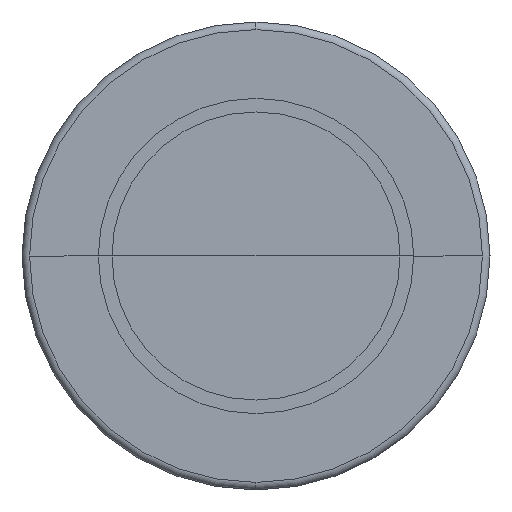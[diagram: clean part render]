
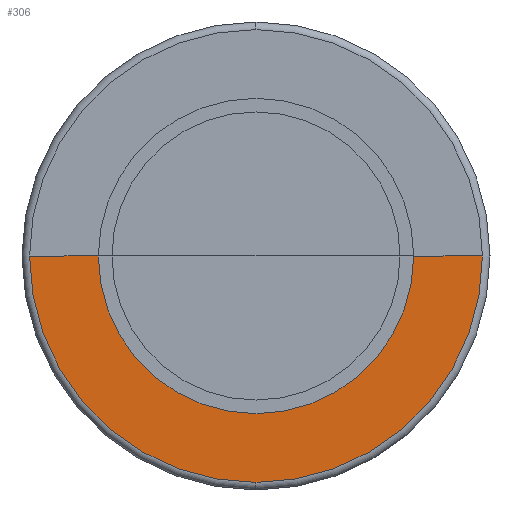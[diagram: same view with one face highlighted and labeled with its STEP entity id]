
A CAD part, left-side view. The second image highlights one B-rep face of the part: STEP entity #306.
In plain terms, the highlighted planar face has unit normal (-1, 0, 0).
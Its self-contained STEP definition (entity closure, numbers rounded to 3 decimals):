
#3 = CARTESIAN_POINT ( 'NONE',  ( -47.5, 0., 0. ) ) ;
#11 = DIRECTION ( 'NONE',  ( 0., 1., 0. ) ) ;
#84 = CARTESIAN_POINT ( 'NONE',  ( -47.5, -20.85, 0. ) ) ;
#85 = DIRECTION ( 'NONE',  ( -1., 0., 0. ) ) ;
#87 = CARTESIAN_POINT ( 'NONE',  ( -47.5, 20.85, 0. ) ) ;
#90 = CARTESIAN_POINT ( 'NONE',  ( -47.5, -29.95, 0. ) ) ;
#151 = EDGE_CURVE ( 'NONE', #1028, #203, #830, .T. ) ;
#188 = VERTEX_POINT ( 'NONE', #190 ) ;
#190 = CARTESIAN_POINT ( 'NONE',  ( -47.5, 29.95, 0. ) ) ;
#196 = EDGE_LOOP ( 'NONE', ( #629, #575, #876, #866, #435 ) ) ;
#203 = VERTEX_POINT ( 'NONE', #838 ) ;
#225 = VERTEX_POINT ( 'NONE', #90 ) ;
#246 = VECTOR ( 'NONE', #11, 1000. ) ;
#306 = ADVANCED_FACE ( 'NONE', ( #492 ), #497, .T. ) ;
#341 = DIRECTION ( 'NONE',  ( 0., -1., 0. ) ) ;
#386 = AXIS2_PLACEMENT_3D ( 'NONE', #637, #960, #879 ) ;
#396 = CARTESIAN_POINT ( 'NONE',  ( -47.5, -29.95, 0. ) ) ;
#400 = AXIS2_PLACEMENT_3D ( 'NONE', #3, #596, #341 ) ;
#406 = EDGE_CURVE ( 'NONE', #225, #1028, #890, .T. ) ;
#415 = DIRECTION ( 'NONE',  ( 0., 1., 0. ) ) ;
#431 = CIRCLE ( 'NONE', #386, 29.95 ) ;
#435 = ORIENTED_EDGE ( 'NONE', *, *, #151, .T. ) ;
#472 = EDGE_CURVE ( 'NONE', #953, #225, #431, .T. ) ;
#483 = VECTOR ( 'NONE', #1055, 1000. ) ;
#492 = FACE_OUTER_BOUND ( 'NONE', #196, .T. ) ;
#497 = PLANE ( 'NONE',  #815 ) ;
#499 = LINE ( 'NONE', #87, #246 ) ;
#567 = CIRCLE ( 'NONE', #400, 29.95 ) ;
#575 = ORIENTED_EDGE ( 'NONE', *, *, #1039, .T. ) ;
#596 = DIRECTION ( 'NONE',  ( -1., 0., 0. ) ) ;
#621 = DIRECTION ( 'NONE',  ( 1., 0., 0. ) ) ;
#629 = ORIENTED_EDGE ( 'NONE', *, *, #924, .T. ) ;
#637 = CARTESIAN_POINT ( 'NONE',  ( -47.5, 0., 0. ) ) ;
#696 = AXIS2_PLACEMENT_3D ( 'NONE', #925, #621, #948 ) ;
#815 = AXIS2_PLACEMENT_3D ( 'NONE', #833, #85, #415 ) ;
#830 = CIRCLE ( 'NONE', #696, 20.85 ) ;
#833 = CARTESIAN_POINT ( 'NONE',  ( -47.5, 0., 0. ) ) ;
#838 = CARTESIAN_POINT ( 'NONE',  ( -47.5, 20.85, 0. ) ) ;
#866 = ORIENTED_EDGE ( 'NONE', *, *, #406, .T. ) ;
#876 = ORIENTED_EDGE ( 'NONE', *, *, #472, .T. ) ;
#879 = DIRECTION ( 'NONE',  ( 0., -1., 0. ) ) ;
#890 = LINE ( 'NONE', #396, #483 ) ;
#924 = EDGE_CURVE ( 'NONE', #203, #188, #499, .T. ) ;
#925 = CARTESIAN_POINT ( 'NONE',  ( -47.5, 0., 0. ) ) ;
#948 = DIRECTION ( 'NONE',  ( 0., -1., 0. ) ) ;
#953 = VERTEX_POINT ( 'NONE', #1063 ) ;
#960 = DIRECTION ( 'NONE',  ( -1., 0., 0. ) ) ;
#1028 = VERTEX_POINT ( 'NONE', #84 ) ;
#1039 = EDGE_CURVE ( 'NONE', #188, #953, #567, .T. ) ;
#1055 = DIRECTION ( 'NONE',  ( 0., 1., 0. ) ) ;
#1063 = CARTESIAN_POINT ( 'NONE',  ( -47.5, 0., -29.95 ) ) ;
